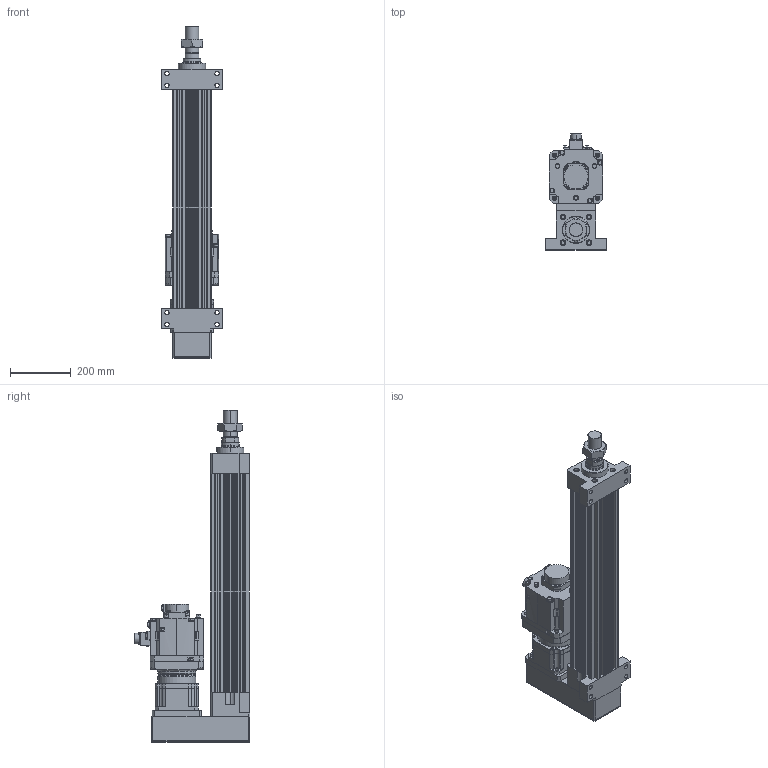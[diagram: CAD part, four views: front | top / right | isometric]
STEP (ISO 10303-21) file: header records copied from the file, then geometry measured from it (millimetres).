
FILE_DESCRIPTION (( 'STEP AP203' ), '1' );
FILE_NAME ('HES130NS(FS)(HS)-P500-W020G00-M-FFB.STEP', '2026-06-10T06:09:32', ( 'tms' ), ( '' ), 'SwSTEP 2.0', 'SolidWorks 2013', '' );
FILE_SCHEMA (( 'CONFIG_CONTROL_DESIGN' ));
Length unit declared in the file: millimetre
Products named in the file (9): AB1421; M45X1.5P; AB1422; HES130-M-ROD-500; HES130-P-G142; HES130-FFB-500; HG-SR202B; HES130NS(FS)(HS)-P500-W020G00-M-FFB; AB1423
Assembly tree (8 placements, depth 2):
  HES130NS(FS)(HS)-P500-W020G00-M-FFB
    HES130-FFB-500
    HES130-M-ROD-500
    M45X1.5P
    HES130-P-G142
    AB1421
    AB1422
    AB1423
    HG-SR202B
Bounding box: 200 x 381.85 x 1094 mm (x, y, z)
Volume: 15164464.1 mm3; surface area: 1817413.4 mm2
Topology: 5 solids, 19 shells, 1495 faces, 3890 edges, 2530 vertices
Faces by surface type: cylinder 682, plane 587, cone 144, bspline 76, torus 6
Entity records: 54922 total; most frequent: CARTESIAN_POINT 16717, DIRECTION 7994, ORIENTED_EDGE 7706, EDGE_CURVE 3875, AXIS2_PLACEMENT_3D 3024, VERTEX_POINT 2530, VECTOR 1946, LINE 1946
